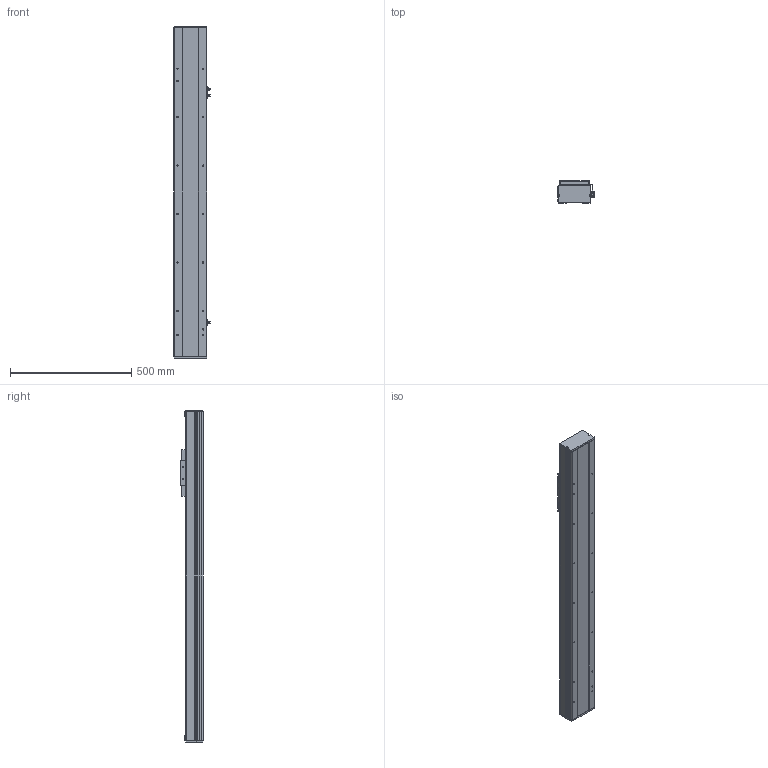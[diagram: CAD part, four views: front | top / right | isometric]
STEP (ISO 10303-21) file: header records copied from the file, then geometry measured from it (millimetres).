
FILE_DESCRIPTION (( 'STEP AP214' ), '1' );
FILE_NAME ('TPF14-M-950-P40.STEP', '2023-03-27T03:20:19', ( '' ), ( '' ), 'SwSTEP 2.0', 'SolidWorks 2020', '' );
FILE_SCHEMA (( 'AUTOMOTIVE_DESIGN' ));
Length unit declared in the file: millimetre
Products named in the file (6): TPF14-M-950-P40; 葩璃 TPF14-BL-002 耜裔ZTMZ-135-04^TPF14-M-P40; 葩璃 TPF14-BL-001 菁釱MZ-135-01^TPF14-M-P40; 葩璃 詩湍75^TPF14-M-P40; 葩璃 TPF14 賑雄殤^TPF14-M-P40; 葩璃 pm-t65-672^TPF14-M-P40
Assembly tree (8 placements, depth 2):
  TPF14-M-950-P40
    葩璃 TPF14-BL-001 菁釱MZ-135-01^TPF14-M-P40
    葩璃 TPF14-BL-002 耜裔ZTMZ-135-04^TPF14-M-P40  x2
    葩璃 詩湍75^TPF14-M-P40
    葩璃 TPF14 賑雄殤^TPF14-M-P40
    葩璃 pm-t65-672^TPF14-M-P40  x3
Bounding box: 148.7 x 91 x 1370 mm (x, y, z)
Volume: 8610631.9 mm3; surface area: 1292052.5 mm2
Topology: 15 solids, 15 shells, 787 faces, 2068 edges, 1316 vertices
Faces by surface type: plane 538, cylinder 189, cone 52, bspline 8
Entity records: 17595 total; most frequent: CARTESIAN_POINT 3162, DIRECTION 2724, ORIENTED_EDGE 2688, EDGE_CURVE 1344, LINE 984, VECTOR 984, AXIS2_PLACEMENT_3D 870, VERTEX_POINT 864
